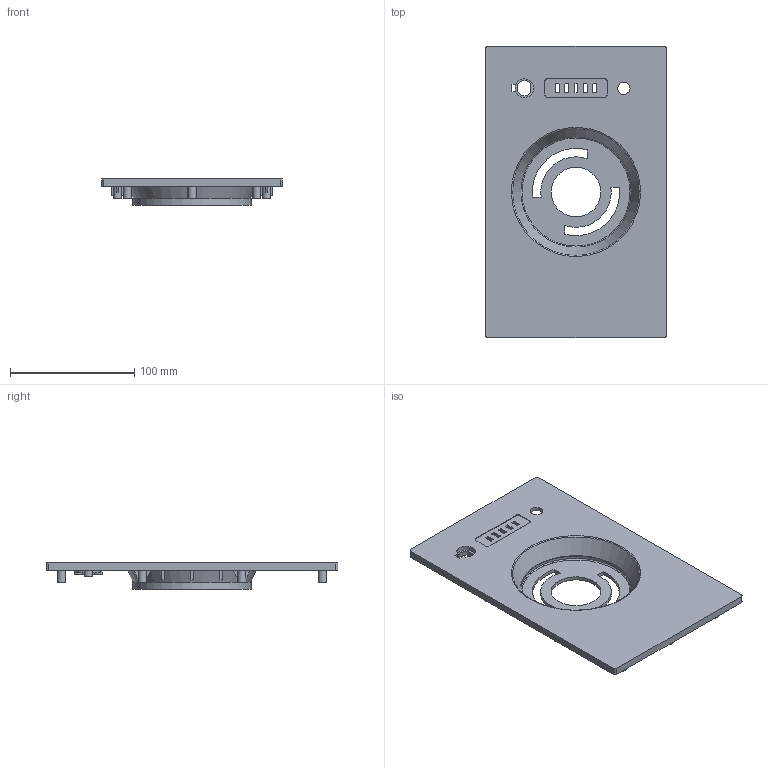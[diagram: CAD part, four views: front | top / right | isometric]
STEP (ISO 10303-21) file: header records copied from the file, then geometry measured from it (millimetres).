
FILE_DESCRIPTION(/* description */ ('STEP AP242 Edition 2','CAx-IF Rec.Pracs.---Representation and Presentation of Product Manufacturing Information (PMI)---4.0---2014-10-13','CAx-IF Rec.Pracs.---3D Tessellated Geometry---0.4---2014-09-14','2;1','CAx-IF Rec.Pracs.---User Defined Attributes---1.5---2016-08-15'),/* implementation_level */ '2;1');
FILE_NAME(/* name */ 'Assy_ForMFG - KD-B-301X_BATTERY_FRONT',/* time_stamp */ '2026-05-15T19:56:26Z',/* author */ (''),/* organization */ (''),/* preprocessor_version */ 'ST-DEVELOPER v20',/* originating_system */ 'ONSHAPE BY PTC INC, 1.215',/* authorisation */ ' ');
FILE_SCHEMA (('AP242_MANAGED_MODEL_BASED_3D_ENGINEERING_MIM_LF { 1 0 10303 442 3 1 4 }'));
Length unit declared in the file: metre
Products named in the file (1): KD-B-301X_BATTERY_FRONT
Bounding box: 145.3 x 234.6 x 21 mm (x, y, z)
Volume: 119866.4 mm3; surface area: 88376.2 mm2
Topology: 1 solids, 1 shells, 294 faces, 744 edges, 495 vertices
Faces by surface type: plane 194, cylinder 91, torus 7, cone 2
Full cylindrical faces by diameter (mm): 1.5 x2, 2.4 x11, 2.5 x3, 6.5 x14, 10 x1, 40 x1, 89 x1, 95 x1
Entity records: 8656 total; most frequent: DIRECTION 1508, CARTESIAN_POINT 1477, ORIENTED_EDGE 1392, EDGE_CURVE 696, AXIS2_PLACEMENT_3D 517, VERTEX_POINT 486, LINE 474, VECTOR 474
